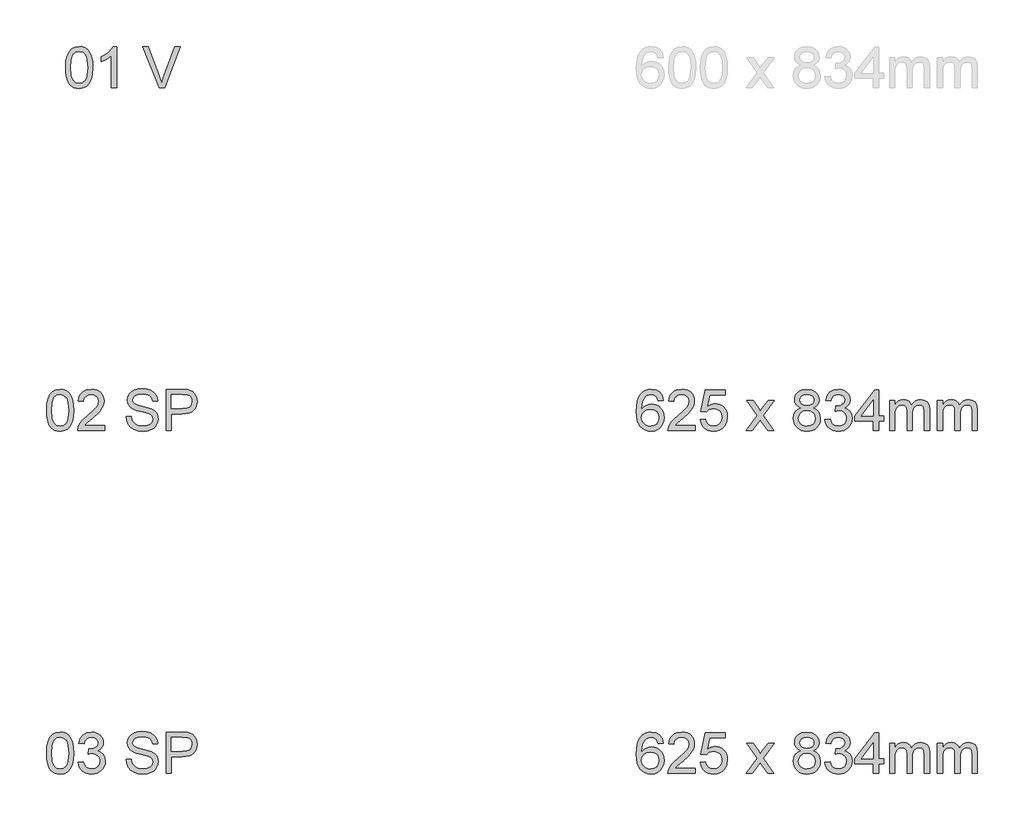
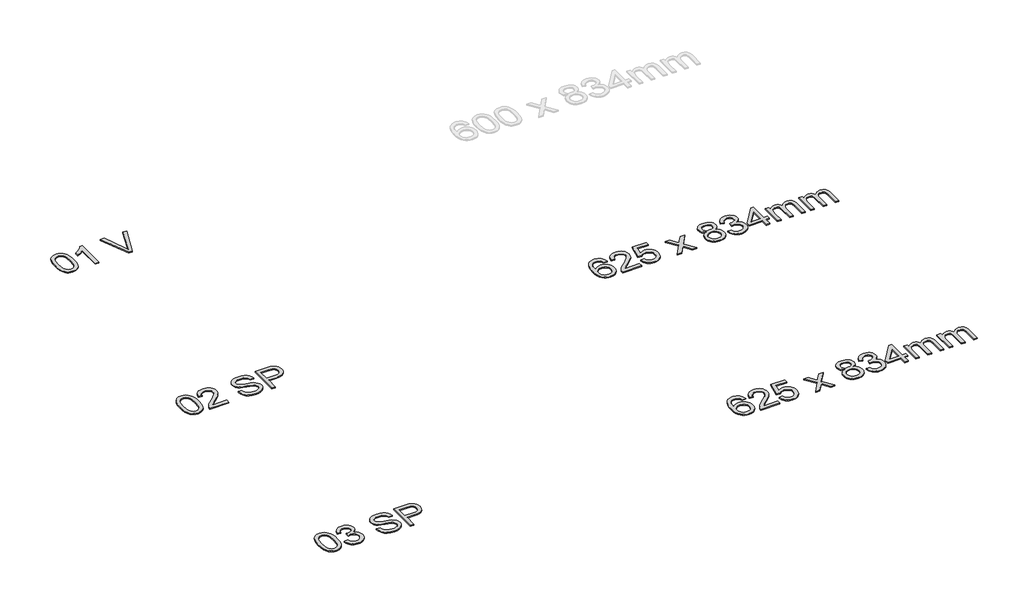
# One storey, part 61 of 67: 5 proxies.
"""IFC4 building model written with IfcOpenShell, lengths in millimetres."""

from ifc_helpers import new_model, si_unit, origin, origin_with_axes, place, context, project, spatial, polyline, outline, extrude, element, save

model = new_model("IFC4")

# Units and contexts
model_context = context("Model", 3, world=origin())
ifc_project = project(units=[si_unit("LENGTHUNIT", "METRE", prefix="MILLI")], contexts=[model_context])

# Site, building, storey
site = spatial("IfcSite", under=ifc_project)
building = spatial("IfcBuilding", under=site)
storey = spatial("IfcBuildingStorey", under=building, Name="Marelli - Linha COLAB - Planta Baixa", Elevation=0.0)

# Proxies
placement = place(None, origin())
element("IfcBuildingElementProxy", 1, Name="300mm Arial", ObjectType="300mm Arial", at=placement, inside=storey, context=model_context, shape_type="SweptSolid", body=[
    extrude(outline(polyline([(-25150.5235972, 3940.7514882), (-25188.1947135, 3936.0425987), (-25194.2647664, 3954.7126099), (-25202.4685349, 3967.4597211), (-25219.5566536, 3979.2135508), (-25240.2132276, 3983.1314941), (-25257.7244106, 3980.8506257), (-25274.205524, 3974.0080206), (-25288.3597837, 3959.5962434), (-25299.9204754, 3939.7582068), (-25307.7287708, 3911.6980077), (-25310.6258415, 3872.6197427), (-25295.5150886, 3890.2504873), (-25277.4060973, 3902.6757017), (-25257.3105434, 3910.0425387), (-25236.2401021, 3912.498151), (-25218.1403079, 3910.8196894), (-25201.4384653, 3905.7843046), (-25186.1345743, 3897.3919966), (-25172.2286349, 3885.6427654), (-25160.6725417, 3871.2355867), (-25152.4181895, 3854.8694365), (-25147.4655781, 3836.5443146), (-25145.8147077, 3816.2602211), (-25148.9233105, 3789.2852738), (-25158.2491191, 3764.2784951), (-25173.0195812, 3743.0700981), (-25192.4621447, 3727.4902956), (-25215.6938927, 3717.9161667), (-25241.8319084, 3714.7247904), (-25264.288805, 3716.8401119), (-25284.5705992, 3723.1860763), (-25302.6772911, 3733.7626836), (-25318.6088808, 3748.5699339), (-25331.5974145, 3768.2332266), (-25340.8749386, 3793.377961), (-25346.441453, 3824.0041371), (-25348.2969578, 3860.1117549), (-25346.2368186, 3900.5925699), (-25340.0564011, 3935.1412878), (-25329.7557053, 3963.7579085), (-25315.334731, 3986.442432), (-25299.7043448, 4001.4750101), (-25281.581558, 4012.2125658), (-25260.9663707, 4018.6550992), (-25237.8587829, 4020.8026104), (-25204.8045856, 4015.4867156), (-25178.335476, 3999.5390311), (-25159.7942235, 3974.2103557), (-25150.5235972, 3940.7514882)]), holes=[polyline([(-25310.6258415, 3816.8488323), (-25308.4461407, 3800.1561867), (-25301.9070382, 3784.2176993), (-25291.7534952, 3770.514095), (-25278.7304725, 3760.5260988), (-25263.0127143, 3754.4284547), (-25244.7749644, 3752.3959067), (-25219.9153385, 3756.6081555), (-25200.3716076, 3769.2449021), (-25187.7072699, 3789.1105298), (-25183.485824, 3815.0094223), (-25187.6520876, 3839.8690481), (-25200.1508784, 3858.8241679), (-25220.0257031, 3870.826318), (-25246.3200687, 3874.8270347), (-25271.1429064, 3870.826318), (-25291.900648, 3858.8241679), (-25305.9445431, 3840.3289006), (-25310.6258415, 3816.8488323)])]), origin_with_axes(), (0.0, 0.0, 1.0), 10.0),
    extrude(outline(polyline([(-24919.7880098, 3757.1047962), (-24919.7880098, 3719.4336799), (-25117.5613704, 3719.4336799), (-25113.5146685, 3745.4061488), (-25104.2256481, 3765.7040379), (-25090.6324084, 3785.3949217), (-25070.9691157, 3806.0055104), (-25043.4699366, 3829.0625145), (-25002.8189761, 3865.1701323), (-24978.4283999, 3891.8231829), (-24966.2331117, 3913.4546442), (-24962.1680157, 3934.4974943), (-24966.0031855, 3953.3606436), (-24977.5086949, 3969.0416137), (-24995.1946218, 3979.609024), (-25017.5710441, 3983.1314941), (-25041.0695066, 3979.6917974), (-25059.3256506, 3969.3727075), (-25071.1070715, 3952.9835646), (-25075.1813646, 3931.3337092), (-25112.8524809, 3936.0425987), (-25103.7198104, 3972.4813103), (-25095.1734518, 3987.0172476), (-25083.9737443, 3999.0975727), (-25070.3782053, 4008.5935267), (-25054.6443522, 4015.376351), (-25016.7617038, 4020.8026104), (-24996.57188, 4019.2942942), (-24978.6031438, 4014.7693457), (-24962.8554952, 4007.2277648), (-24949.328934, 3996.6695515), (-24938.4649189, 3983.8764551), (-24930.704908, 3969.6302249), (-24926.0489015, 3953.9308607), (-24924.4968994, 3936.7783627), (-24926.1707624, 3918.761342), (-24931.1923517, 3901.057021), (-24940.104293, 3883.0491973), (-24953.4492124, 3864.1216686), (-24974.7219888, 3841.5245171), (-25007.4175011, 3812.5078247), (-25050.7540001, 3776.2714482), (-25067.7501483, 3757.1047962), (-24919.7880098, 3757.1047962)])), origin_with_axes(), (0.0, 0.0, 1.0), 10.0),
    extrude(outline(polyline([(-24882.1168935, 3799.4848021), (-24844.4457772, 3804.1936916), (-24837.5295957, 3781.578146), (-24825.4630663, 3765.3821411), (-24808.3013712, 3755.6424653), (-24786.0996928, 3752.3959067), (-24759.0971543, 3756.9116582), (-24738.8636446, 3770.4589127), (-24726.2268981, 3791.4741716), (-24722.0146492, 3818.3939366), (-24725.9601836, 3843.7410061), (-24737.7967868, 3863.1283872), (-24757.6164293, 3875.43404), (-24785.5110816, 3879.5359242), (-24803.7856197, 3877.8988494), (-24818.583673, 3872.9876247), (-24839.7368877, 3855.9914765), (-24877.408004, 3860.7003661), (-24844.4457772, 4016.0937208), (-24698.4702015, 4016.0937208), (-24698.4702015, 3978.4226045), (-24813.985148, 3978.4226045), (-24830.0983794, 3895.4284264), (-24803.1878115, 3911.762387), (-24774.9896565, 3917.2070405), (-24756.6438413, 3915.5193819), (-24739.7925466, 3910.4564059), (-24724.4357726, 3902.0181127), (-24710.5735192, 3890.2045021), (-24699.0979002, 3875.7375426), (-24690.9010295, 3859.3392027), (-24685.9829071, 3841.0094823), (-24684.3435329, 3820.7483814), (-24690.2480389, 3783.0772651), (-24697.6286715, 3766.283452), (-24707.961557, 3750.8508023), (-24723.6149359, 3735.0456721), (-24741.880277, 3723.7562934), (-24762.7575802, 3716.9826661), (-24786.2468456, 3714.7247904), (-24823.2465772, 3720.5281289), (-24838.925248, 3727.782302), (-24852.7231221, 3737.9381443), (-24864.2033396, 3750.4898181), (-24872.9290407, 3764.9314857), (-24882.1168935, 3799.4848021)])), origin_with_axes(), (0.0, 0.0, 1.0), 10.0),
    extrude(outline(polyline([(-24547.7857363, 3719.4336799), (-24467.2931558, 3830.6811953), (-24543.0768468, 3940.7514882), (-24497.753785, 3940.7514882), (-24461.1863146, 3887.7764809), (-24444.1165901, 3862.7605053), (-24429.3277339, 3883.2147442), (-24387.683492, 3940.7514882), (-24342.3604302, 3940.7514882), (-24421.970094, 3830.6811953), (-24345.3034862, 3719.4336799), (-24390.626548, 3719.4336799), (-24436.7589502, 3786.3146267), (-24445.2202361, 3798.5283089), (-24502.4626745, 3719.4336799), (-24547.7857363, 3719.4336799)])), origin_with_axes(), (0.0, 0.0, 1.0), 10.0),
    extrude(outline(polyline([(-24149.1488063, 3885.4220362), (-24169.3179367, 3895.35485), (-24183.4721965, 3908.819331), (-24191.8323148, 3925.5395677), (-24194.6190209, 3945.2396486), (-24193.1015077, 3960.6033204), (-24188.548968, 3974.6886023), (-24180.9614019, 3987.4954942), (-24170.3388093, 3999.0239963), (-24157.1916265, 4008.5521399), (-24142.0302897, 4015.3579569), (-24105.6651545, 4020.8026104), (-24069.0792901, 4015.2291982), (-24053.7524065, 4008.2624329), (-24040.4028886, 3998.5089615), (-24029.5871579, 3986.7551317), (-24021.861636, 3973.7872914), (-24017.2263229, 3959.6054405), (-24015.6812185, 3944.209579), (-24018.4311364, 3925.1440946), (-24026.6808901, 3908.7089665), (-24040.5224502, 3895.3272589), (-24060.0477871, 3885.4220362), (-24036.8620244, 3873.4750684), (-24019.9854378, 3855.8811119), (-24009.693939, 3833.4862955), (-24006.2634394, 3807.1367476), (-24007.9648936, 3788.3471747), (-24013.0692563, 3771.1211003), (-24021.5765275, 3755.4585243), (-24033.4867071, 3741.3594468), (-24048.1743957, 3729.7067846), (-24065.014194, 3721.3834545), (-24084.006102, 3716.3894564), (-24105.1501197, 3714.7247904), (-24126.2941374, 3716.3963542), (-24145.2860454, 3721.4110457), (-24162.1258437, 3729.7688647), (-24176.8135324, 3741.4698114), (-24188.723712, 3755.6677572), (-24197.2309831, 3771.5165734), (-24202.3353458, 3789.0162601), (-24204.0368, 3808.1668172), (-24200.4683447, 3835.5372376), (-24189.7629786, 3858.0516157), (-24172.4725248, 3874.9373993), (-24149.1488063, 3885.4220362)]), holes=[polyline([(-24156.9479046, 3944.1360026), (-24153.6093755, 3927.6916774), (-24143.5937882, 3914.5582902), (-24127.1954483, 3905.9498515), (-24104.7086613, 3903.0803719), (-24082.7461062, 3905.9314574), (-24066.5960866, 3914.4847138), (-24056.6632727, 3927.1766426), (-24053.3523348, 3942.4437454), (-24056.7736373, 3958.2902624), (-24067.037545, 3971.3960584), (-24083.4082938, 3980.1976352), (-24105.1501197, 3983.1314941), (-24127.0299014, 3980.2620145), (-24143.373059, 3971.6535758), (-24153.5541932, 3959.0352234), (-24156.9479046, 3944.1360026)]), polyline([(-24166.3656837, 3809.4911924), (-24160.0749016, 3781.1274905), (-24151.3652954, 3768.9597935), (-24137.8180409, 3759.9006994), (-24121.5944449, 3754.2721049), (-24104.8558141, 3752.3959067), (-24079.2144391, 3756.3414411), (-24059.9742107, 3768.1780443), (-24047.9444695, 3786.1030945), (-24043.9345557, 3808.31397), (-24048.0732282, 3830.9019245), (-24060.4892455, 3849.2224478), (-24080.1709322, 3861.3625537), (-24106.1066129, 3865.4092556), (-24131.389303, 3861.417736), (-24150.4363933, 3849.443177), (-24162.3833611, 3831.4721416), (-24166.3656837, 3809.4911924)])]), origin_with_axes(), (0.0, 0.0, 1.0), 10.0),
    extrude(outline(polyline([(-23973.3012126, 3799.4848021), (-23935.6300963, 3804.1936916), (-23927.1964016, 3780.5204852), (-23914.8447636, 3764.5360125), (-23897.9681771, 3755.4309332), (-23875.9596367, 3752.3959067), (-23850.1343207, 3756.5713673), (-23830.1951165, 3769.0977493), (-23817.4480054, 3787.7861546), (-23813.1989683, 3810.4476855), (-23817.4112172, 3831.9595852), (-23830.0479637, 3849.4063888), (-23849.1778275, 3860.9670805), (-23872.869428, 3864.8206444), (-23899.2833552, 3860.7003661), (-23895.0895005, 3898.3714824), (-23889.0562357, 3897.930024), (-23866.4866753, 3900.6339567), (-23846.3083479, 3908.7457546), (-23832.0713147, 3922.4677531), (-23827.325637, 3942.002287), (-23830.7653336, 3958.2718683), (-23841.0844236, 3971.4696348), (-23856.829773, 3980.2160293), (-23876.5482479, 3983.1314941), (-23896.303511, 3980.1884381), (-23912.4535306, 3971.3592702), (-23924.2441486, 3956.6439904), (-23930.9212068, 3936.0425987), (-23968.5923231, 3940.7514882), (-23957.5006809, 3974.5782377), (-23937.7638119, 3999.8333367), (-23910.7612735, 4015.5602919), (-23877.8726231, 4020.8026104), (-23854.1902197, 4018.2182394), (-23832.4391967, 4010.4651263), (-23814.1002792, 3998.23305), (-23800.6541923, 3982.2117891), (-23792.4044386, 3963.75331), (-23789.6545206, 3944.209579), (-23792.2664828, 3925.9994202), (-23800.1023693, 3909.4815186), (-23813.0518155, 3895.4100323), (-23831.0044569, 3884.5391194), (-23807.423221, 3875.0109757), (-23789.9488262, 3858.7873797), (-23779.1330956, 3836.7512482), (-23775.527852, 3809.7854979), (-23777.3304738, 3790.6740283), (-23782.7383391, 3773.0708748), (-23791.751448, 3756.9760375), (-23804.3698005, 3742.3895164), (-23819.7426693, 3730.2861988), (-23837.0193275, 3721.6409719), (-23856.199775, 3716.4538358), (-23877.2840119, 3714.7247904), (-23896.3402992, 3716.2009169), (-23913.7043294, 3720.6292964), (-23929.3761024, 3728.0099289), (-23943.3556182, 3738.3428145), (-23955.0772583, 3751.0209477), (-23963.9754041, 3765.4373234), (-23970.0500555, 3781.5919415), (-23973.3012126, 3799.4848021)])), origin_with_axes(), (0.0, 0.0, 1.0), 10.0),
    extrude(outline(polyline([(-23620.1344973, 3719.4336799), (-23620.1344973, 3790.067023), (-23756.6922939, 3790.067023), (-23756.6922939, 3827.7381393), (-23610.7167182, 4016.0937208), (-23582.463381, 4016.0937208), (-23582.463381, 3827.7381393), (-23544.7922647, 3827.7381393), (-23544.7922647, 3790.067023), (-23582.463381, 3790.067023), (-23582.463381, 3719.4336799), (-23620.1344973, 3719.4336799)]), holes=[polyline([(-23620.1344973, 3827.7381393), (-23620.1344973, 3944.1360026), (-23710.3391625, 3827.7381393), (-23620.1344973, 3827.7381393)])]), origin_with_axes(), (0.0, 0.0, 1.0), 10.0),
    extrude(outline(polyline([(-23502.4122588, 3719.4336799), (-23502.4122588, 3940.7514882), (-23464.7411425, 3940.7514882), (-23464.7411425, 3904.3311707), (-23453.4103771, 3921.0606044), (-23438.84225, 3934.1664005), (-23421.5334022, 3942.6368835), (-23401.9804741, 3945.4603778), (-23381.0295945, 3942.5817012), (-23364.2357814, 3933.9456713), (-23351.6910054, 3920.1225054), (-23343.4872369, 3901.6824203), (-23329.7560414, 3920.8352767), (-23314.0934655, 3934.5158884), (-23296.4995091, 3942.7242554), (-23276.9741722, 3945.4603778), (-23248.6564556, 3940.9078381), (-23227.714773, 3927.250219), (-23214.7745238, 3904.1196386), (-23210.4611074, 3871.1482147), (-23210.4611074, 3719.4336799), (-23248.1322237, 3719.4336799), (-23248.1322237, 3854.961407), (-23251.6271027, 3886.4153175), (-23256.5383273, 3895.0881356), (-23264.2822433, 3901.9031495), (-23274.2426484, 3906.3177335), (-23285.8033401, 3907.7892615), (-23306.2115937, 3904.018471), (-23322.849057, 3892.7060997), (-23333.913108, 3873.0795952), (-23337.601125, 3844.3664055), (-23337.601125, 3719.4336799), (-23375.2722413, 3719.4336799), (-23375.2722413, 3859.1552617), (-23377.4519421, 3880.4556292), (-23383.9910446, 3895.6491556), (-23395.496554, 3904.754235), (-23412.5754756, 3907.7892615), (-23427.0884203, 3905.7659105), (-23440.4609308, 3899.6958576), (-23451.4973907, 3889.7262555), (-23459.0021834, 3876.0042571), (-23463.3064027, 3856.9663638), (-23464.7411425, 3831.0490773), (-23464.7411425, 3719.4336799), (-23502.4122588, 3719.4336799)])), origin_with_axes(), (0.0, 0.0, 1.0), 10.0),
    extrude(outline(polyline([(-23153.954433, 3719.4336799), (-23153.954433, 3940.7514882), (-23116.2833167, 3940.7514882), (-23116.2833167, 3904.3311707), (-23104.9525512, 3921.0606044), (-23090.3844242, 3934.1664005), (-23073.0755763, 3942.6368835), (-23053.5226483, 3945.4603778), (-23032.5717687, 3942.5817012), (-23015.7779556, 3933.9456713), (-23003.2331796, 3920.1225054), (-22995.0294111, 3901.6824203), (-22981.2982156, 3920.8352767), (-22965.6356397, 3934.5158884), (-22948.0416832, 3942.7242554), (-22928.5163463, 3945.4603778), (-22900.1986298, 3940.9078381), (-22879.2569472, 3927.250219), (-22866.316698, 3904.1196386), (-22862.0032816, 3871.1482147), (-22862.0032816, 3719.4336799), (-22899.6743979, 3719.4336799), (-22899.6743979, 3854.961407), (-22903.1692769, 3886.4153175), (-22908.0805015, 3895.0881356), (-22915.8244175, 3901.9031495), (-22925.7848225, 3906.3177335), (-22937.3455142, 3907.7892615), (-22957.7537679, 3904.018471), (-22974.3912311, 3892.7060997), (-22985.4552821, 3873.0795952), (-22989.1432991, 3844.3664055), (-22989.1432991, 3719.4336799), (-23026.8144154, 3719.4336799), (-23026.8144154, 3859.1552617), (-23028.9941163, 3880.4556292), (-23035.5332187, 3895.6491556), (-23047.0387281, 3904.754235), (-23064.1176498, 3907.7892615), (-23078.6305945, 3905.7659105), (-23092.003105, 3899.6958576), (-23103.0395648, 3889.7262555), (-23110.5443576, 3876.0042571), (-23114.8485769, 3856.9663638), (-23116.2833167, 3831.0490773), (-23116.2833167, 3719.4336799), (-23153.954433, 3719.4336799)])), origin_with_axes(), (0.0, 0.0, 1.0), 10.0),
])
element("IfcBuildingElementProxy", 2, Name="300mm Arial", ObjectType="300mm Arial", at=placement, inside=storey, context=model_context, shape_type="SweptSolid", body=[
    extrude(outline(polyline([(-25150.5235972, 1440.7514882), (-25188.1947135, 1436.0425987), (-25194.2647664, 1454.7126099), (-25202.4685349, 1467.4597211), (-25219.5566536, 1479.2135508), (-25240.2132276, 1483.1314941), (-25257.7244106, 1480.8506257), (-25274.205524, 1474.0080206), (-25288.3597837, 1459.5962434), (-25299.9204754, 1439.7582068), (-25307.7287708, 1411.6980077), (-25310.6258415, 1372.6197427), (-25295.5150886, 1390.2504873), (-25277.4060973, 1402.6757017), (-25257.3105434, 1410.0425387), (-25236.2401021, 1412.498151), (-25218.1403079, 1410.8196894), (-25201.4384653, 1405.7843046), (-25186.1345743, 1397.3919966), (-25172.2286349, 1385.6427654), (-25160.6725417, 1371.2355867), (-25152.4181895, 1354.8694365), (-25147.4655781, 1336.5443146), (-25145.8147077, 1316.2602211), (-25148.9233105, 1289.2852738), (-25158.2491191, 1264.2784951), (-25173.0195812, 1243.0700981), (-25192.4621447, 1227.4902956), (-25215.6938927, 1217.9161667), (-25241.8319084, 1214.7247904), (-25264.288805, 1216.8401119), (-25284.5705992, 1223.1860763), (-25302.6772911, 1233.7626836), (-25318.6088808, 1248.5699339), (-25331.5974145, 1268.2332266), (-25340.8749386, 1293.377961), (-25346.441453, 1324.0041371), (-25348.2969578, 1360.1117549), (-25346.2368186, 1400.5925699), (-25340.0564011, 1435.1412878), (-25329.7557053, 1463.7579085), (-25315.334731, 1486.442432), (-25299.7043448, 1501.4750101), (-25281.581558, 1512.2125658), (-25260.9663707, 1518.6550992), (-25237.8587829, 1520.8026104), (-25204.8045856, 1515.4867156), (-25178.335476, 1499.5390311), (-25159.7942235, 1474.2103557), (-25150.5235972, 1440.7514882)]), holes=[polyline([(-25310.6258415, 1316.8488323), (-25308.4461407, 1300.1561867), (-25301.9070382, 1284.2176993), (-25291.7534952, 1270.514095), (-25278.7304725, 1260.5260988), (-25263.0127143, 1254.4284547), (-25244.7749644, 1252.3959067), (-25219.9153385, 1256.6081555), (-25200.3716076, 1269.2449021), (-25187.7072699, 1289.1105298), (-25183.485824, 1315.0094223), (-25187.6520876, 1339.8690481), (-25200.1508784, 1358.8241679), (-25220.0257031, 1370.826318), (-25246.3200687, 1374.8270347), (-25271.1429064, 1370.826318), (-25291.900648, 1358.8241679), (-25305.9445431, 1340.3289006), (-25310.6258415, 1316.8488323)])]), origin_with_axes(), (0.0, 0.0, 1.0), 10.0),
    extrude(outline(polyline([(-24919.7880098, 1257.1047962), (-24919.7880098, 1219.4336799), (-25117.5613704, 1219.4336799), (-25113.5146685, 1245.4061488), (-25104.2256481, 1265.7040379), (-25090.6324084, 1285.3949217), (-25070.9691157, 1306.0055104), (-25043.4699366, 1329.0625145), (-25002.8189761, 1365.1701323), (-24978.4283999, 1391.8231829), (-24966.2331117, 1413.4546442), (-24962.1680157, 1434.4974943), (-24966.0031855, 1453.3606436), (-24977.5086949, 1469.0416137), (-24995.1946218, 1479.609024), (-25017.5710441, 1483.1314941), (-25041.0695066, 1479.6917974), (-25059.3256506, 1469.3727075), (-25071.1070715, 1452.9835646), (-25075.1813646, 1431.3337092), (-25112.8524809, 1436.0425987), (-25103.7198104, 1472.4813103), (-25095.1734518, 1487.0172476), (-25083.9737443, 1499.0975727), (-25070.3782053, 1508.5935267), (-25054.6443522, 1515.376351), (-25016.7617038, 1520.8026104), (-24996.57188, 1519.2942942), (-24978.6031438, 1514.7693457), (-24962.8554952, 1507.2277648), (-24949.328934, 1496.6695515), (-24938.4649189, 1483.8764551), (-24930.704908, 1469.6302249), (-24926.0489015, 1453.9308607), (-24924.4968994, 1436.7783627), (-24926.1707624, 1418.761342), (-24931.1923517, 1401.057021), (-24940.104293, 1383.0491973), (-24953.4492124, 1364.1216686), (-24974.7219888, 1341.5245171), (-25007.4175011, 1312.5078247), (-25050.7540001, 1276.2714482), (-25067.7501483, 1257.1047962), (-24919.7880098, 1257.1047962)])), origin_with_axes(), (0.0, 0.0, 1.0), 10.0),
    extrude(outline(polyline([(-24882.1168935, 1299.4848021), (-24844.4457772, 1304.1936916), (-24837.5295957, 1281.578146), (-24825.4630663, 1265.3821411), (-24808.3013712, 1255.6424653), (-24786.0996928, 1252.3959067), (-24759.0971543, 1256.9116582), (-24738.8636446, 1270.4589127), (-24726.2268981, 1291.4741716), (-24722.0146492, 1318.3939366), (-24725.9601836, 1343.7410061), (-24737.7967868, 1363.1283872), (-24757.6164293, 1375.43404), (-24785.5110816, 1379.5359242), (-24803.7856197, 1377.8988494), (-24818.583673, 1372.9876247), (-24839.7368877, 1355.9914765), (-24877.408004, 1360.7003661), (-24844.4457772, 1516.0937208), (-24698.4702015, 1516.0937208), (-24698.4702015, 1478.4226045), (-24813.985148, 1478.4226045), (-24830.0983794, 1395.4284264), (-24803.1878115, 1411.762387), (-24774.9896565, 1417.2070405), (-24756.6438413, 1415.5193819), (-24739.7925466, 1410.4564059), (-24724.4357726, 1402.0181127), (-24710.5735192, 1390.2045021), (-24699.0979002, 1375.7375426), (-24690.9010295, 1359.3392027), (-24685.9829071, 1341.0094823), (-24684.3435329, 1320.7483814), (-24690.2480389, 1283.0772651), (-24697.6286715, 1266.283452), (-24707.961557, 1250.8508023), (-24723.6149359, 1235.0456721), (-24741.880277, 1223.7562934), (-24762.7575802, 1216.9826661), (-24786.2468456, 1214.7247904), (-24823.2465772, 1220.5281289), (-24838.925248, 1227.782302), (-24852.7231221, 1237.9381443), (-24864.2033396, 1250.4898181), (-24872.9290407, 1264.9314857), (-24882.1168935, 1299.4848021)])), origin_with_axes(), (0.0, 0.0, 1.0), 10.0),
    extrude(outline(polyline([(-24547.7857363, 1219.4336799), (-24467.2931558, 1330.6811953), (-24543.0768468, 1440.7514882), (-24497.753785, 1440.7514882), (-24461.1863146, 1387.7764809), (-24444.1165901, 1362.7605053), (-24429.3277339, 1383.2147442), (-24387.683492, 1440.7514882), (-24342.3604302, 1440.7514882), (-24421.970094, 1330.6811953), (-24345.3034862, 1219.4336799), (-24390.626548, 1219.4336799), (-24436.7589502, 1286.3146267), (-24445.2202361, 1298.5283089), (-24502.4626745, 1219.4336799), (-24547.7857363, 1219.4336799)])), origin_with_axes(), (0.0, 0.0, 1.0), 10.0),
    extrude(outline(polyline([(-24149.1488063, 1385.4220362), (-24169.3179367, 1395.35485), (-24183.4721965, 1408.819331), (-24191.8323148, 1425.5395677), (-24194.6190209, 1445.2396486), (-24193.1015077, 1460.6033204), (-24188.548968, 1474.6886023), (-24180.9614019, 1487.4954942), (-24170.3388093, 1499.0239963), (-24157.1916265, 1508.5521399), (-24142.0302897, 1515.3579569), (-24105.6651545, 1520.8026104), (-24069.0792901, 1515.2291982), (-24053.7524065, 1508.2624329), (-24040.4028886, 1498.5089615), (-24029.5871579, 1486.7551317), (-24021.861636, 1473.7872914), (-24017.2263229, 1459.6054405), (-24015.6812185, 1444.209579), (-24018.4311364, 1425.1440946), (-24026.6808901, 1408.7089665), (-24040.5224502, 1395.3272589), (-24060.0477871, 1385.4220362), (-24036.8620244, 1373.4750684), (-24019.9854378, 1355.8811119), (-24009.693939, 1333.4862955), (-24006.2634394, 1307.1367476), (-24007.9648936, 1288.3471747), (-24013.0692563, 1271.1211003), (-24021.5765275, 1255.4585243), (-24033.4867071, 1241.3594468), (-24048.1743957, 1229.7067846), (-24065.014194, 1221.3834545), (-24084.006102, 1216.3894564), (-24105.1501197, 1214.7247904), (-24126.2941374, 1216.3963542), (-24145.2860454, 1221.4110457), (-24162.1258437, 1229.7688647), (-24176.8135324, 1241.4698114), (-24188.723712, 1255.6677572), (-24197.2309831, 1271.5165734), (-24202.3353458, 1289.0162601), (-24204.0368, 1308.1668172), (-24200.4683447, 1335.5372376), (-24189.7629786, 1358.0516157), (-24172.4725248, 1374.9373993), (-24149.1488063, 1385.4220362)]), holes=[polyline([(-24156.9479046, 1444.1360026), (-24153.6093755, 1427.6916774), (-24143.5937882, 1414.5582902), (-24127.1954483, 1405.9498515), (-24104.7086613, 1403.0803719), (-24082.7461062, 1405.9314574), (-24066.5960866, 1414.4847138), (-24056.6632727, 1427.1766426), (-24053.3523348, 1442.4437454), (-24056.7736373, 1458.2902624), (-24067.037545, 1471.3960584), (-24083.4082938, 1480.1976352), (-24105.1501197, 1483.1314941), (-24127.0299014, 1480.2620145), (-24143.373059, 1471.6535758), (-24153.5541932, 1459.0352234), (-24156.9479046, 1444.1360026)]), polyline([(-24166.3656837, 1309.4911924), (-24160.0749016, 1281.1274905), (-24151.3652954, 1268.9597935), (-24137.8180409, 1259.9006994), (-24121.5944449, 1254.2721049), (-24104.8558141, 1252.3959067), (-24079.2144391, 1256.3414411), (-24059.9742107, 1268.1780443), (-24047.9444695, 1286.1030945), (-24043.9345557, 1308.31397), (-24048.0732282, 1330.9019245), (-24060.4892455, 1349.2224478), (-24080.1709322, 1361.3625537), (-24106.1066129, 1365.4092556), (-24131.389303, 1361.417736), (-24150.4363933, 1349.443177), (-24162.3833611, 1331.4721416), (-24166.3656837, 1309.4911924)])]), origin_with_axes(), (0.0, 0.0, 1.0), 10.0),
    extrude(outline(polyline([(-23973.3012126, 1299.4848021), (-23935.6300963, 1304.1936916), (-23927.1964016, 1280.5204852), (-23914.8447636, 1264.5360125), (-23897.9681771, 1255.4309332), (-23875.9596367, 1252.3959067), (-23850.1343207, 1256.5713673), (-23830.1951165, 1269.0977493), (-23817.4480054, 1287.7861546), (-23813.1989683, 1310.4476855), (-23817.4112172, 1331.9595852), (-23830.0479637, 1349.4063888), (-23849.1778275, 1360.9670805), (-23872.869428, 1364.8206444), (-23899.2833552, 1360.7003661), (-23895.0895005, 1398.3714824), (-23889.0562357, 1397.930024), (-23866.4866753, 1400.6339567), (-23846.3083479, 1408.7457546), (-23832.0713147, 1422.4677531), (-23827.325637, 1442.002287), (-23830.7653336, 1458.2718683), (-23841.0844236, 1471.4696348), (-23856.829773, 1480.2160293), (-23876.5482479, 1483.1314941), (-23896.303511, 1480.1884381), (-23912.4535306, 1471.3592702), (-23924.2441486, 1456.6439904), (-23930.9212068, 1436.0425987), (-23968.5923231, 1440.7514882), (-23957.5006809, 1474.5782377), (-23937.7638119, 1499.8333367), (-23910.7612735, 1515.5602919), (-23877.8726231, 1520.8026104), (-23854.1902197, 1518.2182394), (-23832.4391967, 1510.4651263), (-23814.1002792, 1498.23305), (-23800.6541923, 1482.2117891), (-23792.4044386, 1463.75331), (-23789.6545206, 1444.209579), (-23792.2664828, 1425.9994202), (-23800.1023693, 1409.4815186), (-23813.0518155, 1395.4100323), (-23831.0044569, 1384.5391194), (-23807.423221, 1375.0109757), (-23789.9488262, 1358.7873797), (-23779.1330956, 1336.7512482), (-23775.527852, 1309.7854979), (-23777.3304738, 1290.6740283), (-23782.7383391, 1273.0708748), (-23791.751448, 1256.9760375), (-23804.3698005, 1242.3895164), (-23819.7426693, 1230.2861988), (-23837.0193275, 1221.6409719), (-23856.199775, 1216.4538358), (-23877.2840119, 1214.7247904), (-23896.3402992, 1216.2009169), (-23913.7043294, 1220.6292964), (-23929.3761024, 1228.0099289), (-23943.3556182, 1238.3428145), (-23955.0772583, 1251.0209477), (-23963.9754041, 1265.4373234), (-23970.0500555, 1281.5919415), (-23973.3012126, 1299.4848021)])), origin_with_axes(), (0.0, 0.0, 1.0), 10.0),
    extrude(outline(polyline([(-23620.1344973, 1219.4336799), (-23620.1344973, 1290.067023), (-23756.6922939, 1290.067023), (-23756.6922939, 1327.7381393), (-23610.7167182, 1516.0937208), (-23582.463381, 1516.0937208), (-23582.463381, 1327.7381393), (-23544.7922647, 1327.7381393), (-23544.7922647, 1290.067023), (-23582.463381, 1290.067023), (-23582.463381, 1219.4336799), (-23620.1344973, 1219.4336799)]), holes=[polyline([(-23620.1344973, 1327.7381393), (-23620.1344973, 1444.1360026), (-23710.3391625, 1327.7381393), (-23620.1344973, 1327.7381393)])]), origin_with_axes(), (0.0, 0.0, 1.0), 10.0),
    extrude(outline(polyline([(-23502.4122588, 1219.4336799), (-23502.4122588, 1440.7514882), (-23464.7411425, 1440.7514882), (-23464.7411425, 1404.3311707), (-23453.4103771, 1421.0606044), (-23438.84225, 1434.1664005), (-23421.5334022, 1442.6368835), (-23401.9804741, 1445.4603778), (-23381.0295945, 1442.5817012), (-23364.2357814, 1433.9456713), (-23351.6910054, 1420.1225054), (-23343.4872369, 1401.6824203), (-23329.7560414, 1420.8352767), (-23314.0934655, 1434.5158884), (-23296.4995091, 1442.7242554), (-23276.9741722, 1445.4603778), (-23248.6564556, 1440.9078381), (-23227.714773, 1427.250219), (-23214.7745238, 1404.1196386), (-23210.4611074, 1371.1482147), (-23210.4611074, 1219.4336799), (-23248.1322237, 1219.4336799), (-23248.1322237, 1354.961407), (-23251.6271027, 1386.4153175), (-23256.5383273, 1395.0881356), (-23264.2822433, 1401.9031495), (-23274.2426484, 1406.3177335), (-23285.8033401, 1407.7892615), (-23306.2115937, 1404.018471), (-23322.849057, 1392.7060997), (-23333.913108, 1373.0795952), (-23337.601125, 1344.3664055), (-23337.601125, 1219.4336799), (-23375.2722413, 1219.4336799), (-23375.2722413, 1359.1552617), (-23377.4519421, 1380.4556292), (-23383.9910446, 1395.6491556), (-23395.496554, 1404.754235), (-23412.5754756, 1407.7892615), (-23427.0884203, 1405.7659105), (-23440.4609308, 1399.6958576), (-23451.4973907, 1389.7262555), (-23459.0021834, 1376.0042571), (-23463.3064027, 1356.9663638), (-23464.7411425, 1331.0490773), (-23464.7411425, 1219.4336799), (-23502.4122588, 1219.4336799)])), origin_with_axes(), (0.0, 0.0, 1.0), 10.0),
    extrude(outline(polyline([(-23153.954433, 1219.4336799), (-23153.954433, 1440.7514882), (-23116.2833167, 1440.7514882), (-23116.2833167, 1404.3311707), (-23104.9525512, 1421.0606044), (-23090.3844242, 1434.1664005), (-23073.0755763, 1442.6368835), (-23053.5226483, 1445.4603778), (-23032.5717687, 1442.5817012), (-23015.7779556, 1433.9456713), (-23003.2331796, 1420.1225054), (-22995.0294111, 1401.6824203), (-22981.2982156, 1420.8352767), (-22965.6356397, 1434.5158884), (-22948.0416832, 1442.7242554), (-22928.5163463, 1445.4603778), (-22900.1986298, 1440.9078381), (-22879.2569472, 1427.250219), (-22866.316698, 1404.1196386), (-22862.0032816, 1371.1482147), (-22862.0032816, 1219.4336799), (-22899.6743979, 1219.4336799), (-22899.6743979, 1354.961407), (-22903.1692769, 1386.4153175), (-22908.0805015, 1395.0881356), (-22915.8244175, 1401.9031495), (-22925.7848225, 1406.3177335), (-22937.3455142, 1407.7892615), (-22957.7537679, 1404.018471), (-22974.3912311, 1392.7060997), (-22985.4552821, 1373.0795952), (-22989.1432991, 1344.3664055), (-22989.1432991, 1219.4336799), (-23026.8144154, 1219.4336799), (-23026.8144154, 1359.1552617), (-23028.9941163, 1380.4556292), (-23035.5332187, 1395.6491556), (-23047.0387281, 1404.754235), (-23064.1176498, 1407.7892615), (-23078.6305945, 1405.7659105), (-23092.003105, 1399.6958576), (-23103.0395648, 1389.7262555), (-23110.5443576, 1376.0042571), (-23114.8485769, 1356.9663638), (-23116.2833167, 1331.0490773), (-23116.2833167, 1219.4336799), (-23153.954433, 1219.4336799)])), origin_with_axes(), (0.0, 0.0, 1.0), 10.0),
])
element("IfcBuildingElementProxy", 3, Name="300mm Arial", ObjectType="300mm Arial", at=placement, inside=storey, context=model_context, shape_type="SweptSolid", body=[
    extrude(outline(polyline([(-29507.7601752, 6367.690124), (-29504.9918632, 6415.9286506), (-29496.6869272, 6454.3999103), (-29482.9281406, 6483.6925141), (-29463.7982768, 6504.3950734), (-29439.1593802, 6516.7007261), (-29408.8734949, 6520.8026104), (-29385.660141, 6518.3745892), (-29364.8748083, 6511.0905257), (-29347.492384, 6499.2355284), (-29334.4877555, 6483.0947059), (-29324.6653062, 6462.8060138), (-29316.8294197, 6438.5074081), (-29311.6974659, 6407.6513057), (-29309.9868146, 6367.690124), (-29312.7275355, 6319.7275089), (-29320.9496981, 6281.3482197), (-29334.6257113, 6252.0280247), (-29353.7279839, 6231.242692), (-29378.4220628, 6218.8542658), (-29408.8734949, 6214.7247904), (-29429.6220395, 6216.5182151), (-29448.0161392, 6221.8984893), (-29464.0557942, 6230.8656129), (-29477.7410044, 6243.419586), (-29490.8743917, 6266.1133066), (-29500.2553825, 6294.3896364), (-29505.8839771, 6328.2485756), (-29507.7601752, 6367.690124)]), holes=[polyline([(-29470.0890589, 6367.7637004), (-29465.674475, 6308.507108), (-29460.1562451, 6288.2391093), (-29452.4307232, 6274.211309), (-29432.7122482, 6257.8497573), (-29408.8734949, 6252.3959067), (-29385.0347416, 6257.8681514), (-29365.3162667, 6274.2848854), (-29357.5907448, 6288.3356784), (-29352.0725149, 6308.5990785), (-29347.6579309, 6367.7637004), (-29351.9253621, 6425.6867205), (-29357.259651, 6445.8880406), (-29364.7276555, 6460.249234), (-29384.4093422, 6477.410929), (-29409.3149533, 6483.1314941), (-29432.8961892, 6478.0915107), (-29451.842112, 6462.9715607), (-29459.8251513, 6447.3365759), (-29465.5273222, 6426.2569376), (-29470.0890589, 6367.7637004)])]), origin_with_axes(), (0.0, 0.0, 1.0), 10.0),
    extrude(outline(polyline([(-29135.7579017, 6219.4336799), (-29173.429018, 6219.4336799), (-29173.429018, 6454.2895457), (-29209.1135715, 6428.8688998), (-29248.7712506, 6409.8494006), (-29248.7712506, 6445.4603778), (-29219.1843412, 6461.5552151), (-29193.5521632, 6480.7034729), (-29173.3462446, 6501.0657413), (-29160.0381134, 6520.8026104), (-29135.7579017, 6520.8026104), (-29135.7579017, 6219.4336799)])), origin_with_axes(), (0.0, 0.0, 1.0), 10.0),
    extrude(outline(polyline([(-28825.4126506, 6219.4336799), (-28945.342181, 6520.8026104), (-28905.0223143, 6520.8026104), (-28824.750463, 6303.6786568), (-28808.4900788, 6254.7503515), (-28792.4504238, 6303.6786568), (-28711.9578433, 6520.8026104), (-28671.6379766, 6520.8026104), (-28786.4907355, 6219.4336799), (-28825.4126506, 6219.4336799)])), origin_with_axes(), (0.0, 0.0, 1.0), 10.0),
])
element("IfcBuildingElementProxy", 4, Name="300mm Arial", ObjectType="300mm Arial", at=placement, inside=storey, context=model_context, shape_type="SweptSolid", body=[
    extrude(outline(polyline([(-29646.6724166, 3867.690124), (-29643.9041046, 3915.9286506), (-29635.5991686, 3954.3999103), (-29621.8403819, 3983.6925141), (-29602.7105182, 4004.3950734), (-29578.0716216, 4016.7007261), (-29547.7857363, 4020.8026104), (-29524.5723824, 4018.3745892), (-29503.7870497, 4011.0905257), (-29486.4046254, 3999.2355284), (-29473.3999969, 3983.0947059), (-29463.5775476, 3962.8060138), (-29455.7416611, 3938.5074081), (-29450.6097073, 3907.6513057), (-29448.899056, 3867.690124), (-29451.6397769, 3819.7275089), (-29459.8619395, 3781.3482197), (-29473.5379526, 3752.0280247), (-29492.6402252, 3731.242692), (-29517.3343042, 3718.8542658), (-29547.7857363, 3714.7247904), (-29568.5342808, 3716.5182151), (-29586.9283806, 3721.8984893), (-29602.9680356, 3730.8656129), (-29616.6532458, 3743.419586), (-29629.786633, 3766.1133066), (-29639.1676239, 3794.3896364), (-29644.7962184, 3828.2485756), (-29646.6724166, 3867.690124)]), holes=[polyline([(-29609.0013003, 3867.7637004), (-29604.5867164, 3808.507108), (-29599.0684864, 3788.2391093), (-29591.3429645, 3774.211309), (-29571.6244896, 3757.8497573), (-29547.7857363, 3752.3959067), (-29523.946983, 3757.8681514), (-29504.2285081, 3774.2848854), (-29496.5029862, 3788.3356784), (-29490.9847563, 3808.5990785), (-29486.5701723, 3867.7637004), (-29490.8376035, 3925.6867205), (-29496.1718924, 3945.8880406), (-29503.6398969, 3960.249234), (-29523.3215836, 3977.410929), (-29548.2271947, 3983.1314941), (-29571.8084306, 3978.0915107), (-29590.7543533, 3962.9715607), (-29598.7373926, 3947.3365759), (-29604.4395636, 3926.2569376), (-29609.0013003, 3867.7637004)])]), origin_with_axes(), (0.0, 0.0, 1.0), 10.0),
    extrude(outline(polyline([(-29222.8723582, 3757.1047962), (-29222.8723582, 3719.4336799), (-29420.6457188, 3719.4336799), (-29416.5990168, 3745.4061488), (-29407.3099964, 3765.7040379), (-29393.7167567, 3785.3949217), (-29374.0534641, 3806.0055104), (-29346.5542849, 3829.0625145), (-29305.9033245, 3865.1701323), (-29281.5127482, 3891.8231829), (-29269.3174601, 3913.4546442), (-29265.252364, 3934.4974943), (-29269.0875338, 3953.3606436), (-29280.5930432, 3969.0416137), (-29298.2789701, 3979.609024), (-29320.6553925, 3983.1314941), (-29344.1538549, 3979.6917974), (-29362.4099989, 3969.3727075), (-29374.1914198, 3952.9835646), (-29378.2657129, 3931.3337092), (-29415.9368292, 3936.0425987), (-29406.8041587, 3972.4813103), (-29398.2578001, 3987.0172476), (-29387.0580926, 3999.0975727), (-29373.4625536, 4008.5935267), (-29357.7287005, 4015.376351), (-29319.8460521, 4020.8026104), (-29299.6562283, 4019.2942942), (-29281.6874921, 4014.7693457), (-29265.9398435, 4007.2277648), (-29252.4132824, 3996.6695515), (-29241.5492672, 3983.8764551), (-29233.7892564, 3969.6302249), (-29229.1332499, 3953.9308607), (-29227.5812477, 3936.7783627), (-29229.2551108, 3918.761342), (-29234.2767, 3901.057021), (-29243.1886414, 3883.0491973), (-29256.5335607, 3864.1216686), (-29277.8063371, 3841.5245171), (-29310.5018494, 3812.5078247), (-29353.8383485, 3776.2714482), (-29370.8344966, 3757.1047962), (-29222.8723582, 3757.1047962)])), origin_with_axes(), (0.0, 0.0, 1.0), 10.0),
    extrude(outline(polyline([(-29067.4790034, 3823.0292498), (-29029.8078871, 3823.0292498), (-29025.4852737, 3802.1243554), (-29017.6677813, 3785.3213453), (-29005.4724931, 3771.9856229), (-28988.0164924, 3761.482592), (-28966.6793367, 3754.667578), (-28942.8405834, 3752.3959067), (-28921.8529156, 3754.115755), (-28903.47721, 3759.2753), (-28888.5871862, 3767.4422803), (-28878.0565641, 3778.1844346), (-28871.7933731, 3790.5176785), (-28869.7056428, 3803.4579276), (-28871.2691413, 3816.067083), (-28875.9596367, 3826.9655871), (-28885.4877804, 3836.2638046), (-28901.5642236, 3844.0720999), (-28956.4154291, 3858.4562859), (-28992.4218793, 3867.9752325), (-29015.4604893, 3877.0343267), (-29034.213274, 3889.7078614), (-29047.5030111, 3905.0669347), (-29055.421671, 3922.7804528), (-29058.0612243, 3942.5173218), (-29054.7962716, 3964.5810445), (-29045.0014135, 3985.154845), (-29028.9341674, 4002.5924516), (-29006.8520506, 4015.2475923), (-28980.3461528, 4022.945523), (-28951.0075637, 4025.5114999), (-28919.2225593, 4022.8259614), (-28891.4106805, 4014.7693457), (-28868.5652086, 4001.5071997), (-28851.679425, 3983.2050705), (-28840.9924531, 3961.0033921), (-28836.743416, 3936.0425987), (-28874.4145323, 3936.0425987), (-28881.3307138, 3958.5201886), (-28895.7516881, 3974.7437846), (-28918.2844603, 3984.5662339), (-28949.5360358, 3987.8403836), (-28981.5233752, 3984.6030221), (-29003.4675362, 3974.8909374), (-29016.1594651, 3960.5987219), (-29020.390108, 3943.6209678), (-29017.3918698, 3929.1448113), (-29008.397155, 3917.5013461), (-28987.1335757, 3907.0902857), (-28946.8872854, 3896.458496), (-28905.3534081, 3886.3601352), (-28880.2270679, 3877.5493615), (-28858.7519564, 3863.8825453), (-28843.7699621, 3847.0151559), (-28834.9683854, 3827.131134), (-28832.0345265, 3804.4144208), (-28835.4098438, 3781.1918699), (-28845.5357957, 3759.3488764), (-28861.998515, 3740.5501065), (-28884.3841344, 3726.460226), (-28911.3038994, 3717.6586493), (-28941.3690555, 3714.7247904), (-28978.2768166, 3717.8885756), (-29008.6546724, 3727.379931), (-29032.8521106, 3743.235645), (-29051.2186192, 3765.4925057), (-29063.0092372, 3792.6054088), (-29067.4790034, 3823.0292498)])), origin_with_axes(), (0.0, 0.0, 1.0), 10.0),
    extrude(outline(polyline([(-28775.527852, 3719.4336799), (-28775.527852, 4020.8026104), (-28663.8388783, 4020.8026104), (-28618.8101221, 4017.9331308), (-28598.7329622, 4012.5712507), (-28582.2058636, 4003.8432504), (-28568.8977324, 3991.3536567), (-28558.4774749, 3974.7069964), (-28551.7452344, 3955.0712949), (-28549.5011542, 3933.6145775), (-28551.0163682, 3915.1147117), (-28555.5620101, 3898.0955709), (-28563.1380799, 3882.5571551), (-28573.7445777, 3868.4994644), (-28588.3058069, 3856.8468022), (-28607.7460711, 3848.523472), (-28632.0653702, 3843.529474), (-28661.2637043, 3841.8648079), (-28737.8567357, 3841.8648079), (-28737.8567357, 3719.4336799), (-28775.527852, 3719.4336799)]), holes=[polyline([(-28737.8567357, 3879.5359242), (-28659.0564124, 3879.5359242), (-28625.6527272, 3882.994015), (-28603.5798075, 3893.3682873), (-28591.2741547, 3910.0149475), (-28587.1722705, 3932.2902023), (-28589.5910946, 3949.2127741), (-28596.847567, 3963.4865955), (-28608.0403767, 3974.2287498), (-28622.2682128, 3980.5563201), (-28659.9393291, 3983.1314941), (-28737.8567357, 3983.1314941), (-28737.8567357, 3879.5359242)])]), origin_with_axes(), (0.0, 0.0, 1.0), 10.0),
])
element("IfcBuildingElementProxy", 5, Name="300mm Arial", ObjectType="300mm Arial", at=placement, inside=storey, context=model_context, shape_type="SweptSolid", body=[
    extrude(outline(polyline([(-29646.6724166, 1367.690124), (-29643.9041046, 1415.9286506), (-29635.5991686, 1454.3999103), (-29621.8403819, 1483.6925141), (-29602.7105182, 1504.3950734), (-29578.0716216, 1516.7007261), (-29547.7857363, 1520.8026104), (-29524.5723824, 1518.3745892), (-29503.7870497, 1511.0905257), (-29486.4046254, 1499.2355284), (-29473.3999969, 1483.0947059), (-29463.5775476, 1462.8060138), (-29455.7416611, 1438.5074081), (-29450.6097073, 1407.6513057), (-29448.899056, 1367.690124), (-29451.6397769, 1319.7275089), (-29459.8619395, 1281.3482197), (-29473.5379526, 1252.0280247), (-29492.6402252, 1231.242692), (-29517.3343042, 1218.8542658), (-29547.7857363, 1214.7247904), (-29568.5342808, 1216.5182151), (-29586.9283806, 1221.8984893), (-29602.9680356, 1230.8656129), (-29616.6532458, 1243.419586), (-29629.786633, 1266.1133066), (-29639.1676239, 1294.3896364), (-29644.7962184, 1328.2485756), (-29646.6724166, 1367.690124)]), holes=[polyline([(-29609.0013003, 1367.7637004), (-29604.5867164, 1308.507108), (-29599.0684864, 1288.2391093), (-29591.3429645, 1274.211309), (-29571.6244896, 1257.8497573), (-29547.7857363, 1252.3959067), (-29523.946983, 1257.8681514), (-29504.2285081, 1274.2848854), (-29496.5029862, 1288.3356784), (-29490.9847563, 1308.5990785), (-29486.5701723, 1367.7637004), (-29490.8376035, 1425.6867205), (-29496.1718924, 1445.8880406), (-29503.6398969, 1460.249234), (-29523.3215836, 1477.410929), (-29548.2271947, 1483.1314941), (-29571.8084306, 1478.0915107), (-29590.7543533, 1462.9715607), (-29598.7373926, 1447.3365759), (-29604.4395636, 1426.2569376), (-29609.0013003, 1367.7637004)])]), origin_with_axes(), (0.0, 0.0, 1.0), 10.0),
    extrude(outline(polyline([(-29415.9368292, 1299.4848021), (-29378.2657129, 1304.1936916), (-29369.8320182, 1280.5204852), (-29357.4803802, 1264.5360125), (-29340.6037937, 1255.4309332), (-29318.5952533, 1252.3959067), (-29292.7699373, 1256.5713673), (-29272.8307331, 1269.0977493), (-29260.083622, 1287.7861546), (-29255.8345849, 1310.4476855), (-29260.0468338, 1331.9595852), (-29272.6835803, 1349.4063888), (-29291.8134441, 1360.9670805), (-29315.5050446, 1364.8206444), (-29341.9189718, 1360.7003661), (-29337.7251171, 1398.3714824), (-29331.6918523, 1397.930024), (-29309.1222919, 1400.6339567), (-29288.9439645, 1408.7457546), (-29274.7069313, 1422.4677531), (-29269.9612535, 1442.002287), (-29273.4009502, 1458.2718683), (-29283.7200402, 1471.4696348), (-29299.4653896, 1480.2160293), (-29319.1838645, 1483.1314941), (-29338.9391276, 1480.1884381), (-29355.0891472, 1471.3592702), (-29366.8797652, 1456.6439904), (-29373.5568234, 1436.0425987), (-29411.2279397, 1440.7514882), (-29400.1362975, 1474.5782377), (-29380.3994285, 1499.8333367), (-29353.3968901, 1515.5602919), (-29320.5082397, 1520.8026104), (-29296.8258362, 1518.2182394), (-29275.0748133, 1510.4651263), (-29256.7358958, 1498.23305), (-29243.2898089, 1482.2117891), (-29235.0400552, 1463.75331), (-29232.2901372, 1444.209579), (-29234.9020994, 1425.9994202), (-29242.7379859, 1409.4815186), (-29255.6874321, 1395.4100323), (-29273.6400735, 1384.5391194), (-29250.0588376, 1375.0109757), (-29232.5844428, 1358.7873797), (-29221.7687122, 1336.7512482), (-29218.1634686, 1309.7854979), (-29219.9660904, 1290.6740283), (-29225.3739557, 1273.0708748), (-29234.3870646, 1256.9760375), (-29247.0054171, 1242.3895164), (-29262.3782859, 1230.2861988), (-29279.6549441, 1221.6409719), (-29298.8353916, 1216.4538358), (-29319.9196285, 1214.7247904), (-29338.9759158, 1216.2009169), (-29356.339946, 1220.6292964), (-29372.011719, 1228.0099289), (-29385.9912348, 1238.3428145), (-29397.7128749, 1251.0209477), (-29406.6110207, 1265.4373234), (-29412.6856721, 1281.5919415), (-29415.9368292, 1299.4848021)])), origin_with_axes(), (0.0, 0.0, 1.0), 10.0),
    extrude(outline(polyline([(-29067.4790034, 1323.0292498), (-29029.8078871, 1323.0292498), (-29025.4852737, 1302.1243554), (-29017.6677813, 1285.3213453), (-29005.4724931, 1271.9856229), (-28988.0164924, 1261.482592), (-28966.6793367, 1254.667578), (-28942.8405834, 1252.3959067), (-28921.8529156, 1254.115755), (-28903.47721, 1259.2753), (-28888.5871862, 1267.4422803), (-28878.0565641, 1278.1844346), (-28871.7933731, 1290.5176785), (-28869.7056428, 1303.4579276), (-28871.2691413, 1316.067083), (-28875.9596367, 1326.9655871), (-28885.4877804, 1336.2638046), (-28901.5642236, 1344.0720999), (-28956.4154291, 1358.4562859), (-28992.4218793, 1367.9752325), (-29015.4604893, 1377.0343267), (-29034.213274, 1389.7078614), (-29047.5030111, 1405.0669347), (-29055.421671, 1422.7804528), (-29058.0612243, 1442.5173218), (-29054.7962716, 1464.5810445), (-29045.0014135, 1485.154845), (-29028.9341674, 1502.5924516), (-29006.8520506, 1515.2475923), (-28980.3461528, 1522.945523), (-28951.0075637, 1525.5114999), (-28919.2225593, 1522.8259614), (-28891.4106805, 1514.7693457), (-28868.5652086, 1501.5071997), (-28851.679425, 1483.2050705), (-28840.9924531, 1461.0033921), (-28836.743416, 1436.0425987), (-28874.4145323, 1436.0425987), (-28881.3307138, 1458.5201886), (-28895.7516881, 1474.7437846), (-28918.2844603, 1484.5662339), (-28949.5360358, 1487.8403836), (-28981.5233752, 1484.6030221), (-29003.4675362, 1474.8909374), (-29016.1594651, 1460.5987219), (-29020.390108, 1443.6209678), (-29017.3918698, 1429.1448113), (-29008.397155, 1417.5013461), (-28987.1335757, 1407.0902857), (-28946.8872854, 1396.458496), (-28905.3534081, 1386.3601352), (-28880.2270679, 1377.5493615), (-28858.7519564, 1363.8825453), (-28843.7699621, 1347.0151559), (-28834.9683854, 1327.131134), (-28832.0345265, 1304.4144208), (-28835.4098438, 1281.1918699), (-28845.5357957, 1259.3488764), (-28861.998515, 1240.5501065), (-28884.3841344, 1226.460226), (-28911.3038994, 1217.6586493), (-28941.3690555, 1214.7247904), (-28978.2768166, 1217.8885756), (-29008.6546724, 1227.379931), (-29032.8521106, 1243.235645), (-29051.2186192, 1265.4925057), (-29063.0092372, 1292.6054088), (-29067.4790034, 1323.0292498)])), origin_with_axes(), (0.0, 0.0, 1.0), 10.0),
    extrude(outline(polyline([(-28775.527852, 1219.4336799), (-28775.527852, 1520.8026104), (-28663.8388783, 1520.8026104), (-28618.8101221, 1517.9331308), (-28598.7329622, 1512.5712507), (-28582.2058636, 1503.8432504), (-28568.8977324, 1491.3536567), (-28558.4774749, 1474.7069964), (-28551.7452344, 1455.0712949), (-28549.5011542, 1433.6145775), (-28551.0163682, 1415.1147117), (-28555.5620101, 1398.0955709), (-28563.1380799, 1382.5571551), (-28573.7445777, 1368.4994644), (-28588.3058069, 1356.8468022), (-28607.7460711, 1348.523472), (-28632.0653702, 1343.529474), (-28661.2637043, 1341.8648079), (-28737.8567357, 1341.8648079), (-28737.8567357, 1219.4336799), (-28775.527852, 1219.4336799)]), holes=[polyline([(-28737.8567357, 1379.5359242), (-28659.0564124, 1379.5359242), (-28625.6527272, 1382.994015), (-28603.5798075, 1393.3682873), (-28591.2741547, 1410.0149475), (-28587.1722705, 1432.2902023), (-28589.5910946, 1449.2127741), (-28596.847567, 1463.4865955), (-28608.0403767, 1474.2287498), (-28622.2682128, 1480.5563201), (-28659.9393291, 1483.1314941), (-28737.8567357, 1483.1314941), (-28737.8567357, 1379.5359242)])]), origin_with_axes(), (0.0, 0.0, 1.0), 10.0),
])

save(model, "model.ifc")
